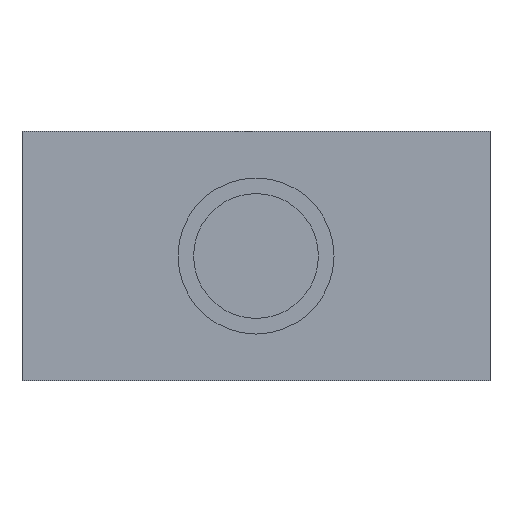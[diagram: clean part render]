
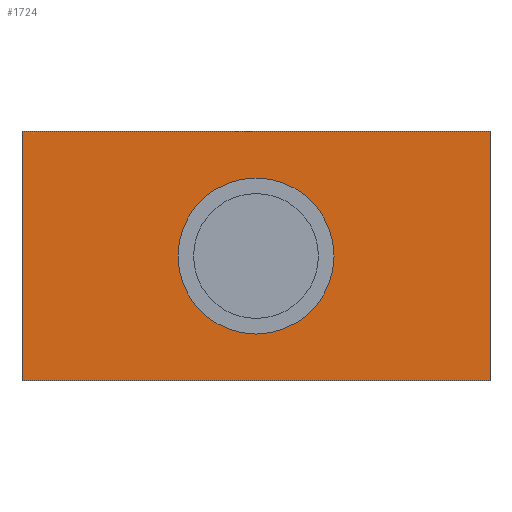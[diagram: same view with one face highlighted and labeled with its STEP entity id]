
A CAD part, front view. The second image highlights one B-rep face of the part: STEP entity #1724.
In plain terms, the highlighted planar face has unit normal (0, -1, 0) as drawn and (0, 0, -1) by its records, which use the part's own axes.
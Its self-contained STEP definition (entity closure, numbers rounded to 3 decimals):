
#110=FACE_BOUND('',#330,.T.);
#142=PLANE('',#1920);
#220=FACE_OUTER_BOUND('',#329,.T.);
#329=EDGE_LOOP('',(#1402,#1403,#1404,#1405));
#330=EDGE_LOOP('',(#1406));
#392=LINE('',#2624,#525);
#431=LINE('',#2740,#564);
#447=LINE('',#2785,#580);
#463=LINE('',#2818,#596);
#525=VECTOR('',#2103,1.);
#564=VECTOR('',#2214,30.);
#580=VECTOR('',#2258,16.);
#596=VECTOR('',#2296,30.);
#653=CIRCLE('',#1832,5.);
#749=VERTEX_POINT('',#2569);
#768=VERTEX_POINT('',#2622);
#769=VERTEX_POINT('',#2623);
#810=VERTEX_POINT('',#2738);
#825=VERTEX_POINT('',#2783);
#915=EDGE_CURVE('',#749,#749,#653,.T.);
#940=EDGE_CURVE('',#768,#769,#392,.T.);
#996=EDGE_CURVE('',#769,#810,#431,.T.);
#1018=EDGE_CURVE('',#825,#810,#447,.T.);
#1035=EDGE_CURVE('',#825,#768,#463,.T.);
#1402=ORIENTED_EDGE('',*,*,#940,.T.);
#1403=ORIENTED_EDGE('',*,*,#996,.T.);
#1404=ORIENTED_EDGE('',*,*,#1018,.F.);
#1405=ORIENTED_EDGE('',*,*,#1035,.T.);
#1406=ORIENTED_EDGE('',*,*,#915,.T.);
#1724=ADVANCED_FACE('',(#220,#110),#142,.T.);
#1832=AXIS2_PLACEMENT_3D('',#2571,#2043,#2044);
#1920=AXIS2_PLACEMENT_3D('',#2819,#2297,#2298);
#2043=DIRECTION('center_axis',(0.,0.,1.));
#2044=DIRECTION('ref_axis',(1.,0.,0.));
#2103=DIRECTION('',(0.,-1.,0.));
#2214=DIRECTION('',(-1.,0.,0.));
#2258=DIRECTION('',(0.,-1.,0.));
#2296=DIRECTION('',(1.,0.,0.));
#2297=DIRECTION('center_axis',(0.,0.,-1.));
#2298=DIRECTION('ref_axis',(-1.,0.,0.));
#2569=CARTESIAN_POINT('',(-5.,-8.,-40.));
#2571=CARTESIAN_POINT('Origin',(0.,-8.,-40.));
#2622=CARTESIAN_POINT('',(15.,0.,-40.));
#2623=CARTESIAN_POINT('',(15.,-16.,-40.));
#2624=CARTESIAN_POINT('',(15.,0.,-40.));
#2738=CARTESIAN_POINT('',(-15.,-16.,-40.));
#2740=CARTESIAN_POINT('',(15.,-16.,-40.));
#2783=CARTESIAN_POINT('',(-15.,0.,-40.));
#2785=CARTESIAN_POINT('',(-15.,0.,-40.));
#2818=CARTESIAN_POINT('',(-15.,0.,-40.));
#2819=CARTESIAN_POINT('Origin',(15.,-1.,-40.));
